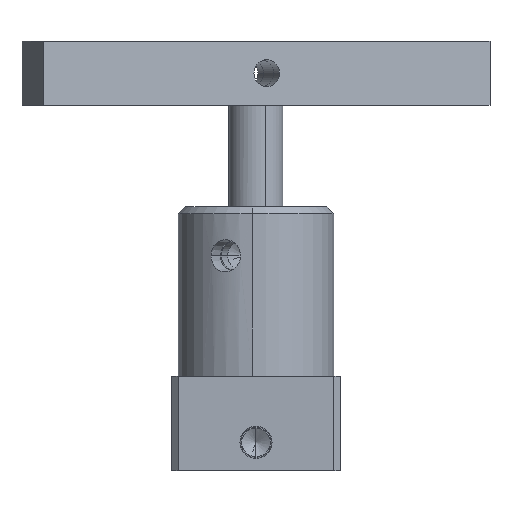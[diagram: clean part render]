
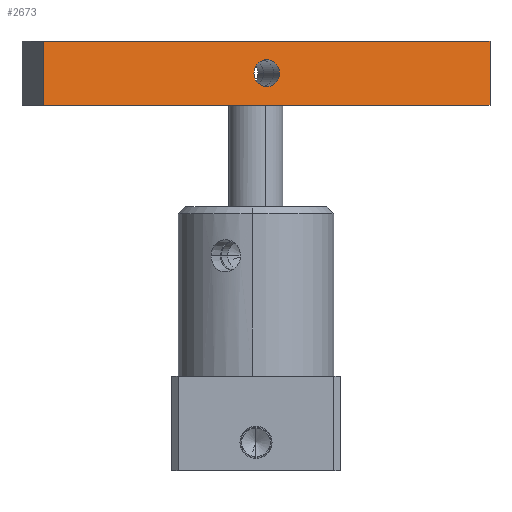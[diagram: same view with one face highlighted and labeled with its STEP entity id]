
A CAD part, front view. The second image highlights one B-rep face of the part: STEP entity #2673.
In plain terms, the highlighted planar face has unit normal (0.334, -0.943, 0) as drawn and (0, 0, -1) by its records, which use the part's own axes.
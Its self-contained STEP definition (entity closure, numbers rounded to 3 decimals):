
#1 = VERTEX_POINT ( 'NONE', #758 ) ;
#5 = VERTEX_POINT ( 'NONE', #757 ) ;
#9 = EDGE_CURVE ( 'NONE', #1, #5, #756, .T. ) ;
#20 = EDGE_CURVE ( 'NONE', #123, #1, #789, .T. ) ;
#107 = VERTEX_POINT ( 'NONE', #986 ) ;
#108 = EDGE_CURVE ( 'NONE', #107, #109, #985, .T. ) ;
#109 = VERTEX_POINT ( 'NONE', #980 ) ;
#121 = EDGE_CURVE ( 'NONE', #122, #123, #1020, .T. ) ;
#122 = VERTEX_POINT ( 'NONE', #1016 ) ;
#123 = VERTEX_POINT ( 'NONE', #1015 ) ;
#753 = DIRECTION ( 'NONE',  ( 0., 1., 0. ) ) ;
#754 = VECTOR ( 'NONE', #753, 1000. ) ;
#755 = CARTESIAN_POINT ( 'NONE',  ( 140., 0., 0. ) ) ;
#756 = LINE ( 'NONE', #755, #754 ) ;
#757 = CARTESIAN_POINT ( 'NONE',  ( 140., 19., 0. ) ) ;
#758 = CARTESIAN_POINT ( 'NONE',  ( 140., 0., 0. ) ) ;
#786 = DIRECTION ( 'NONE',  ( 1., 0., 0. ) ) ;
#787 = VECTOR ( 'NONE', #786, 1000. ) ;
#788 = CARTESIAN_POINT ( 'NONE',  ( 0., 0., 0. ) ) ;
#789 = LINE ( 'NONE', #788, #787 ) ;
#980 = CARTESIAN_POINT ( 'NONE',  ( 74., 9.5, 0. ) ) ;
#981 = DIRECTION ( 'NONE',  ( 1., 0., 0. ) ) ;
#982 = DIRECTION ( 'NONE',  ( 0., 0., 1. ) ) ;
#983 = CARTESIAN_POINT ( 'NONE',  ( 70., 9.5, 0. ) ) ;
#984 = AXIS2_PLACEMENT_3D ( 'NONE', #983, #982, #981 ) ;
#985 = CIRCLE ( 'NONE', #984, 4. ) ;
#986 = CARTESIAN_POINT ( 'NONE',  ( 66., 9.5, 0. ) ) ;
#1015 = CARTESIAN_POINT ( 'NONE',  ( 0., 0., 0. ) ) ;
#1016 = CARTESIAN_POINT ( 'NONE',  ( 0., 19., 0. ) ) ;
#1017 = DIRECTION ( 'NONE',  ( 0., -1., 0. ) ) ;
#1018 = VECTOR ( 'NONE', #1017, 1000. ) ;
#1019 = CARTESIAN_POINT ( 'NONE',  ( 0., 0., 0. ) ) ;
#1020 = LINE ( 'NONE', #1019, #1018 ) ;
#2036 = LINE ( 'NONE', #2098, #2097 ) ;
#2049 = DIRECTION ( 'NONE',  ( -1., 0., 0. ) ) ;
#2050 = DIRECTION ( 'NONE',  ( 0., 0., -1. ) ) ;
#2051 = CARTESIAN_POINT ( 'NONE',  ( 0., 19., 0. ) ) ;
#2052 = AXIS2_PLACEMENT_3D ( 'NONE', #2051, #2050, #2049 ) ;
#2053 = PLANE ( 'NONE',  #2052 ) ;
#2054 = FACE_OUTER_BOUND ( 'NONE', #2669, .T. ) ;
#2055 = FACE_BOUND ( 'NONE', #2676, .T. ) ;
#2056 = DIRECTION ( 'NONE',  ( 1., 0., 0. ) ) ;
#2057 = DIRECTION ( 'NONE',  ( 0., 0., 1. ) ) ;
#2058 = AXIS2_PLACEMENT_3D ( 'NONE', #2064, #2057, #2056 ) ;
#2059 = CIRCLE ( 'NONE', #2058, 4. ) ;
#2064 = CARTESIAN_POINT ( 'NONE',  ( 70., 9.5, 0. ) ) ;
#2096 = DIRECTION ( 'NONE',  ( -1., 0., 0. ) ) ;
#2097 = VECTOR ( 'NONE', #2096, 1000. ) ;
#2098 = CARTESIAN_POINT ( 'NONE',  ( 0., 19., 0. ) ) ;
#2665 = ORIENTED_EDGE ( 'NONE', *, *, #9, .F. ) ;
#2666 = ORIENTED_EDGE ( 'NONE', *, *, #20, .F. ) ;
#2667 = ORIENTED_EDGE ( 'NONE', *, *, #121, .F. ) ;
#2668 = ORIENTED_EDGE ( 'NONE', *, *, #2688, .F. ) ;
#2669 = EDGE_LOOP ( 'NONE', ( #2667, #2668, #2665, #2666 ) ) ;
#2670 = ORIENTED_EDGE ( 'NONE', *, *, #108, .T. ) ;
#2671 = ORIENTED_EDGE ( 'NONE', *, *, #2672, .T. ) ;
#2672 = EDGE_CURVE ( 'NONE', #109, #107, #2059, .T. ) ;
#2673 = ADVANCED_FACE ( 'NONE', ( #2055, #2054 ), #2053, .T. ) ;
#2676 = EDGE_LOOP ( 'NONE', ( #2671, #2670 ) ) ;
#2688 = EDGE_CURVE ( 'NONE', #5, #122, #2036, .T. ) ;
